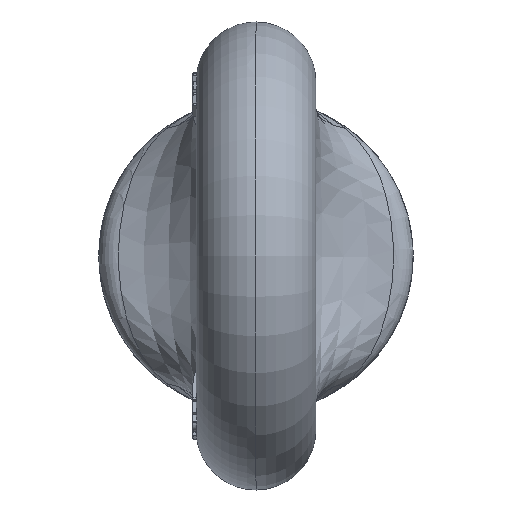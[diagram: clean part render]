
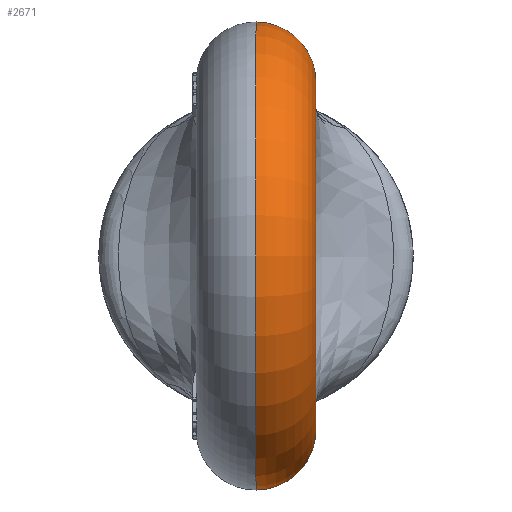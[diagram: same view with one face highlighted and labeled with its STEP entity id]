
A CAD part, left-side view. The second image highlights one B-rep face of the part: STEP entity #2671.
In plain terms, the highlighted toroidal (fillet/blend) face has major radius 23.25 mm and minor radius 8 mm.
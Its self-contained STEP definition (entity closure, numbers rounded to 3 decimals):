
#1605 = CARTESIAN_POINT ( 'NONE',  ( 0., 0., 31.25 ) ) ;
#1612 = CARTESIAN_POINT ( 'NONE',  ( 0., 0., -31.25 ) ) ;
#2424 = CARTESIAN_POINT ( 'NONE',  ( 0., 0., 15.25 ) ) ;
#2441 = DIRECTION ( 'NONE',  ( 0., 0., 1. ) ) ;
#2442 = DIRECTION ( 'NONE',  ( 0., 1., 0. ) ) ;
#2443 = CARTESIAN_POINT ( 'NONE',  ( 0., 0., 0. ) ) ;
#2444 = AXIS2_PLACEMENT_3D ( 'NONE', #2443, #2442, #2441 ) ;
#2445 = CIRCLE ( 'NONE', #2444, 15.25 ) ;
#2451 = CIRCLE ( 'NONE', #2487, 31.25 ) ;
#2472 = CARTESIAN_POINT ( 'NONE',  ( 0., 0., -15.25 ) ) ;
#2484 = DIRECTION ( 'NONE',  ( 0., 0., 1. ) ) ;
#2485 = DIRECTION ( 'NONE',  ( 0., 1., 0. ) ) ;
#2486 = CARTESIAN_POINT ( 'NONE',  ( 0., 0., 0. ) ) ;
#2487 = AXIS2_PLACEMENT_3D ( 'NONE', #2486, #2485, #2484 ) ;
#2646 = ORIENTED_EDGE ( 'NONE', *, *, #23650, .T. ) ;
#2647 = ORIENTED_EDGE ( 'NONE', *, *, #2656, .T. ) ;
#2656 = EDGE_CURVE ( 'NONE', #23659, #23383, #11897, .T. ) ;
#2671 = ADVANCED_FACE ( 'NONE', ( #12021 ), #12018, .T. ) ;
#2672 = EDGE_LOOP ( 'NONE', ( #2673, #2698, #2646, #2647 ) ) ;
#2673 = ORIENTED_EDGE ( 'NONE', *, *, #23670, .F. ) ;
#2698 = ORIENTED_EDGE ( 'NONE', *, *, #2721, .F. ) ;
#2721 = EDGE_CURVE ( 'NONE', #23660, #23381, #12723, .T. ) ;
#11894 = DIRECTION ( 'NONE',  ( 0., 0., 1. ) ) ;
#11895 = DIRECTION ( 'NONE',  ( -1., 0., 0. ) ) ;
#11896 = AXIS2_PLACEMENT_3D ( 'NONE', #11913, #11895, #11894 ) ;
#11897 = CIRCLE ( 'NONE', #11896, 8. ) ;
#11913 = CARTESIAN_POINT ( 'NONE',  ( 0., 0., 23.25 ) ) ;
#12006 = DIRECTION ( 'NONE',  ( 0., 0., 1. ) ) ;
#12007 = DIRECTION ( 'NONE',  ( 0., 1., 0. ) ) ;
#12008 = CARTESIAN_POINT ( 'NONE',  ( 0., 0., 0. ) ) ;
#12018 = TOROIDAL_SURFACE ( 'NONE', #12019, 23.25, 8. ) ;
#12019 = AXIS2_PLACEMENT_3D ( 'NONE', #12008, #12007, #12006 ) ;
#12021 = FACE_OUTER_BOUND ( 'NONE', #2672, .T. ) ;
#12723 = CIRCLE ( 'NONE', #12728, 8. ) ;
#12728 = AXIS2_PLACEMENT_3D ( 'NONE', #12780, #12779, #12778 ) ;
#12778 = DIRECTION ( 'NONE',  ( 0., 0., -1. ) ) ;
#12779 = DIRECTION ( 'NONE',  ( 1., 0., 0. ) ) ;
#12780 = CARTESIAN_POINT ( 'NONE',  ( 0., 0., -23.25 ) ) ;
#23381 = VERTEX_POINT ( 'NONE', #1612 ) ;
#23383 = VERTEX_POINT ( 'NONE', #1605 ) ;
#23650 = EDGE_CURVE ( 'NONE', #23660, #23659, #2445, .T. ) ;
#23659 = VERTEX_POINT ( 'NONE', #2424 ) ;
#23660 = VERTEX_POINT ( 'NONE', #2472 ) ;
#23670 = EDGE_CURVE ( 'NONE', #23381, #23383, #2451, .T. ) ;
